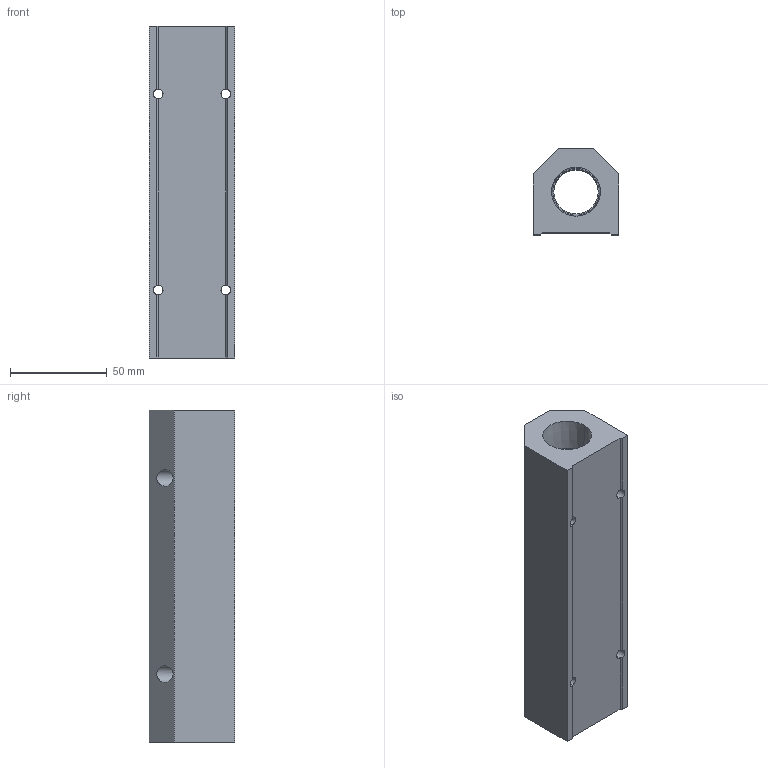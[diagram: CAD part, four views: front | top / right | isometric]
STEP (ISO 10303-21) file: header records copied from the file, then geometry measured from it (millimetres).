
FILE_DESCRIPTION (( 'STEP AP214' ), '1' );
FILE_NAME ('ALM6C-N4N12-172B.step', '2022-02-06T14:10:35', ( '' ), ( '' ), 'SwSTEP 2.0', 'SolidWorks 2020', '' );
FILE_SCHEMA (( 'AUTOMOTIVE_DESIGN' ));
Length unit declared in the file: millimetre
Products named in the file (1): ALM6C-N4N12-172B
Bounding box: 44.5 x 44.5 x 172 mm (x, y, z)
Volume: 219792.4 mm3; surface area: 46832.1 mm2
Topology: 1 solids, 1 shells, 282 faces, 743 edges, 490 vertices
Faces by surface type: plane 194, bspline 44, cone 22, cylinder 22
Entity records: 12329 total; most frequent: CARTESIAN_POINT 5428, ORIENTED_EDGE 1486, DIRECTION 1157, EDGE_CURVE 743, VECTOR 559, LINE 559, VERTEX_POINT 490, EDGE_LOOP 331
